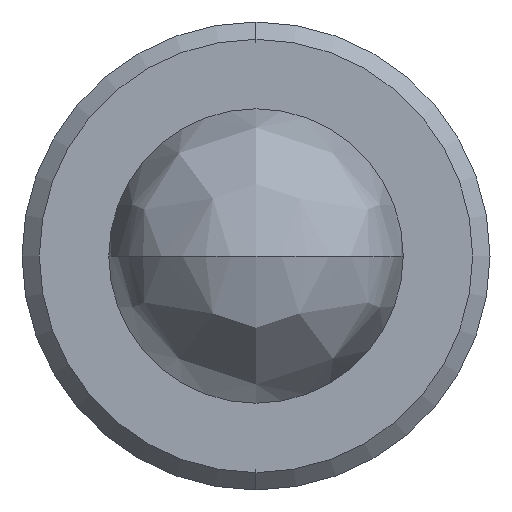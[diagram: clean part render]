
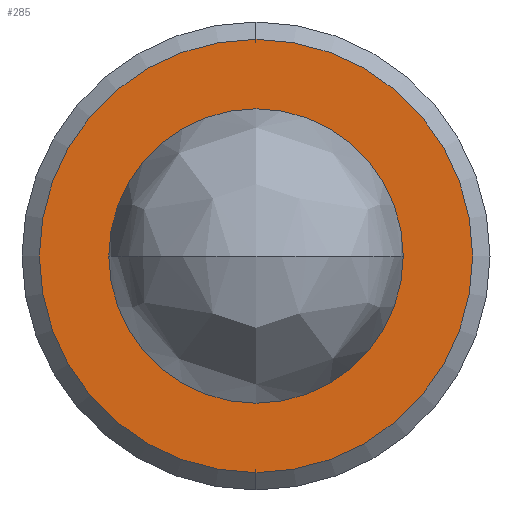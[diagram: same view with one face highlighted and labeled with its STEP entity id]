
A CAD part, left-side view. The second image highlights one B-rep face of the part: STEP entity #285.
In plain terms, the highlighted planar face has unit normal (-1, 0, 0).
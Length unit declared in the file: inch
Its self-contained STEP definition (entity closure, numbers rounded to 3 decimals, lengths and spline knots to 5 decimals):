
#5 = DIRECTION ( 'NONE',  ( 0., -0.707, 0.707 ) ) ;
#9 = VERTEX_POINT ( 'NONE', #193 ) ;
#44 = DIRECTION ( 'NONE',  ( 1., 0., 0. ) ) ;
#61 = AXIS2_PLACEMENT_3D ( 'NONE', #323, #502, #736 ) ;
#83 = ORIENTED_EDGE ( 'NONE', *, *, #647, .T. ) ;
#96 = AXIS2_PLACEMENT_3D ( 'NONE', #307, #481, #606 ) ;
#122 = AXIS2_PLACEMENT_3D ( 'NONE', #387, #44, #555 ) ;
#138 = DIRECTION ( 'NONE',  ( 1., 0., 0. ) ) ;
#193 = CARTESIAN_POINT ( 'NONE',  ( 0.33, 0., -0.00975 ) ) ;
#201 = ORIENTED_EDGE ( 'NONE', *, *, #619, .F. ) ;
#205 = ORIENTED_EDGE ( 'NONE', *, *, #739, .F. ) ;
#229 = DIRECTION ( 'NONE',  ( -1., 0., 0. ) ) ;
#232 = CARTESIAN_POINT ( 'NONE',  ( 0.33, 0., 0. ) ) ;
#237 = DIRECTION ( 'NONE',  ( 0., 0., 1. ) ) ;
#249 = CARTESIAN_POINT ( 'NONE',  ( 0.33, 0., 0.01435 ) ) ;
#265 = CARTESIAN_POINT ( 'NONE',  ( 0.33, 0., -0.01435 ) ) ;
#282 = AXIS2_PLACEMENT_3D ( 'NONE', #232, #138, #237 ) ;
#285 = ADVANCED_FACE ( 'NONE', ( #697, #288 ), #634, .T. ) ;
#288 = FACE_OUTER_BOUND ( 'NONE', #454, .T. ) ;
#307 = CARTESIAN_POINT ( 'NONE',  ( 0.33, 0., 0. ) ) ;
#311 = CIRCLE ( 'NONE', #122, 0.01435 ) ;
#323 = CARTESIAN_POINT ( 'NONE',  ( 0.33, 0., 0. ) ) ;
#381 = CIRCLE ( 'NONE', #282, 0.00975 ) ;
#387 = CARTESIAN_POINT ( 'NONE',  ( 0.33, 0., 0. ) ) ;
#454 = EDGE_LOOP ( 'NONE', ( #201, #205 ) ) ;
#461 = ORIENTED_EDGE ( 'NONE', *, *, #598, .T. ) ;
#467 = EDGE_LOOP ( 'NONE', ( #461, #83 ) ) ;
#481 = DIRECTION ( 'NONE',  ( 1., 0., 0. ) ) ;
#492 = VERTEX_POINT ( 'NONE', #674 ) ;
#502 = DIRECTION ( 'NONE',  ( 1., 0., 0. ) ) ;
#509 = VERTEX_POINT ( 'NONE', #265 ) ;
#522 = CARTESIAN_POINT ( 'NONE',  ( 0.33, 0.00975, 0. ) ) ;
#555 = DIRECTION ( 'NONE',  ( 0., 0., -1. ) ) ;
#585 = AXIS2_PLACEMENT_3D ( 'NONE', #522, #229, #5 ) ;
#598 = EDGE_CURVE ( 'NONE', #9, #492, #665, .T. ) ;
#606 = DIRECTION ( 'NONE',  ( 0., 0., 1. ) ) ;
#619 = EDGE_CURVE ( 'NONE', #680, #509, #712, .T. ) ;
#634 = PLANE ( 'NONE',  #585 ) ;
#647 = EDGE_CURVE ( 'NONE', #492, #9, #381, .T. ) ;
#665 = CIRCLE ( 'NONE', #61, 0.00975 ) ;
#674 = CARTESIAN_POINT ( 'NONE',  ( 0.33, 0., 0.00975 ) ) ;
#680 = VERTEX_POINT ( 'NONE', #249 ) ;
#697 = FACE_BOUND ( 'NONE', #467, .T. ) ;
#712 = CIRCLE ( 'NONE', #96, 0.01435 ) ;
#736 = DIRECTION ( 'NONE',  ( 0., 0., -1. ) ) ;
#739 = EDGE_CURVE ( 'NONE', #509, #680, #311, .T. ) ;
